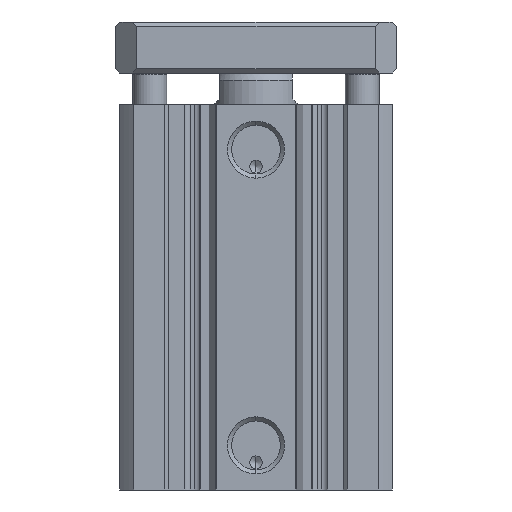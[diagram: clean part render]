
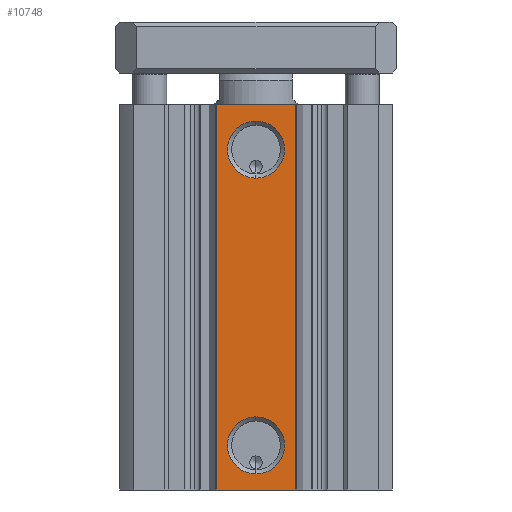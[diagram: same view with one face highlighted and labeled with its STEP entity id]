
A CAD part, front view. The second image highlights one B-rep face of the part: STEP entity #10748.
In plain terms, the highlighted planar face has unit normal (0, -1, 0).
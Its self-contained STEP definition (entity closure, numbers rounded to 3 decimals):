
#310 = EDGE_CURVE ( 'NONE', #5490, #5536, #3928, .T. ) ;
#657 = ORIENTED_EDGE ( 'NONE', *, *, #1694, .T. ) ;
#658 = ORIENTED_EDGE ( 'NONE', *, *, #1731, .T. ) ;
#659 = ORIENTED_EDGE ( 'NONE', *, *, #9224, .T. ) ;
#660 = ORIENTED_EDGE ( 'NONE', *, *, #1730, .T. ) ;
#661 = ORIENTED_EDGE ( 'NONE', *, *, #4389, .T. ) ;
#662 = ORIENTED_EDGE ( 'NONE', *, *, #1735, .T. ) ;
#663 = ORIENTED_EDGE ( 'NONE', *, *, #310, .F. ) ;
#664 = ORIENTED_EDGE ( 'NONE', *, *, #1727, .T. ) ;
#1394 = LINE ( 'NONE', #6936, #1395 ) ;
#1395 = VECTOR ( 'NONE', #6934, 1000. ) ;
#1694 = EDGE_CURVE ( 'NONE', #5698, #5680, #9005, .T. ) ;
#1727 = EDGE_CURVE ( 'NONE', #5490, #5553, #9058, .T. ) ;
#1730 = EDGE_CURVE ( 'NONE', #5590, #5715, #9064, .T. ) ;
#1731 = EDGE_CURVE ( 'NONE', #5680, #5698, #9065, .T. ) ;
#1735 = EDGE_CURVE ( 'NONE', #3543, #5536, #9069, .T. ) ;
#2719 = AXIS2_PLACEMENT_3D ( 'NONE', #11410, #11407, #11403 ) ;
#2937 = DIRECTION ( 'NONE',  ( 1., 0., 0. ) ) ;
#2938 = CARTESIAN_POINT ( 'NONE',  ( 0., -35.5, 65.25 ) ) ;
#3543 = VERTEX_POINT ( 'NONE', #7792 ) ;
#3928 = LINE ( 'NONE', #2938, #3929 ) ;
#3929 = VECTOR ( 'NONE', #2937, 1000. ) ;
#4038 = EDGE_LOOP ( 'NONE', ( #661, #662, #663, #664 ) ) ;
#4039 = EDGE_LOOP ( 'NONE', ( #659, #660 ) ) ;
#4040 = EDGE_LOOP ( 'NONE', ( #657, #658 ) ) ;
#4389 = EDGE_CURVE ( 'NONE', #5553, #3543, #1394, .T. ) ;
#5490 = VERTEX_POINT ( 'NONE', #6990 ) ;
#5536 = VERTEX_POINT ( 'NONE', #6935 ) ;
#5553 = VERTEX_POINT ( 'NONE', #6914 ) ;
#5590 = VERTEX_POINT ( 'NONE', #6868 ) ;
#5680 = VERTEX_POINT ( 'NONE', #6754 ) ;
#5698 = VERTEX_POINT ( 'NONE', #6730 ) ;
#5715 = VERTEX_POINT ( 'NONE', #6709 ) ;
#6709 = CARTESIAN_POINT ( 'NONE',  ( 0., -35.5, -21.45 ) ) ;
#6730 = CARTESIAN_POINT ( 'NONE',  ( 0., -35.5, 48.05 ) ) ;
#6754 = CARTESIAN_POINT ( 'NONE',  ( 0., -35.5, 61.45 ) ) ;
#6868 = CARTESIAN_POINT ( 'NONE',  ( 0., -35.5, -8.05 ) ) ;
#6914 = CARTESIAN_POINT ( 'NONE',  ( -9.294, -35.5, -25.25 ) ) ;
#6934 = DIRECTION ( 'NONE',  ( 1., 0., 0. ) ) ;
#6935 = CARTESIAN_POINT ( 'NONE',  ( 9.294, -35.5, 65.25 ) ) ;
#6936 = CARTESIAN_POINT ( 'NONE',  ( 9.294, -35.5, -25.25 ) ) ;
#6990 = CARTESIAN_POINT ( 'NONE',  ( -9.294, -35.5, 65.25 ) ) ;
#7792 = CARTESIAN_POINT ( 'NONE',  ( 9.294, -35.5, -25.25 ) ) ;
#8111 = DIRECTION ( 'NONE',  ( 0., 0., 1. ) ) ;
#8122 = CARTESIAN_POINT ( 'NONE',  ( 9.294, -35.5, -25.25 ) ) ;
#8302 = DIRECTION ( 'NONE',  ( 0., 0., -1. ) ) ;
#8305 = DIRECTION ( 'NONE',  ( 0., 0., -1. ) ) ;
#8338 = DIRECTION ( 'NONE',  ( 0., 0., -1. ) ) ;
#8353 = DIRECTION ( 'NONE',  ( 0., 1., 0. ) ) ;
#8355 = CARTESIAN_POINT ( 'NONE',  ( 0., -35.5, 54.75 ) ) ;
#8578 = DIRECTION ( 'NONE',  ( 0., 0., -1. ) ) ;
#8579 = CARTESIAN_POINT ( 'NONE',  ( 0., -35.5, -14.75 ) ) ;
#8581 = CARTESIAN_POINT ( 'NONE',  ( -9.294, -35.5, -25.25 ) ) ;
#8603 = CARTESIAN_POINT ( 'NONE',  ( 0., -35.5, 54.75 ) ) ;
#8610 = DIRECTION ( 'NONE',  ( 0., 1., 0. ) ) ;
#8633 = DIRECTION ( 'NONE',  ( 0., 1., 0. ) ) ;
#8830 = AXIS2_PLACEMENT_3D ( 'NONE', #10962, #10961, #10960 ) ;
#9005 = CIRCLE ( 'NONE', #9408, 6.7 ) ;
#9058 = LINE ( 'NONE', #8581, #9060 ) ;
#9060 = VECTOR ( 'NONE', #8305, 1000. ) ;
#9064 = CIRCLE ( 'NONE', #9420, 6.7 ) ;
#9065 = CIRCLE ( 'NONE', #9421, 6.7 ) ;
#9069 = LINE ( 'NONE', #8122, #9071 ) ;
#9071 = VECTOR ( 'NONE', #8111, 1000. ) ;
#9224 = EDGE_CURVE ( 'NONE', #5715, #5590, #9659, .T. ) ;
#9408 = AXIS2_PLACEMENT_3D ( 'NONE', #8355, #8353, #8338 ) ;
#9420 = AXIS2_PLACEMENT_3D ( 'NONE', #8579, #8633, #8578 ) ;
#9421 = AXIS2_PLACEMENT_3D ( 'NONE', #8603, #8610, #8302 ) ;
#9659 = CIRCLE ( 'NONE', #2719, 6.7 ) ;
#10068 = FACE_BOUND ( 'NONE', #4040, .T. ) ;
#10069 = FACE_BOUND ( 'NONE', #4039, .T. ) ;
#10070 = FACE_OUTER_BOUND ( 'NONE', #4038, .T. ) ;
#10748 = ADVANCED_FACE ( 'NONE', ( #10068, #10069, #10070 ), #10963, .T. ) ;
#10960 = DIRECTION ( 'NONE',  ( 0., 0., -1. ) ) ;
#10961 = DIRECTION ( 'NONE',  ( 0., -1., 0. ) ) ;
#10962 = CARTESIAN_POINT ( 'NONE',  ( 9.294, -35.5, -25.25 ) ) ;
#10963 = PLANE ( 'NONE',  #8830 ) ;
#11403 = DIRECTION ( 'NONE',  ( 0., 0., -1. ) ) ;
#11407 = DIRECTION ( 'NONE',  ( 0., 1., 0. ) ) ;
#11410 = CARTESIAN_POINT ( 'NONE',  ( 0., -35.5, -14.75 ) ) ;
